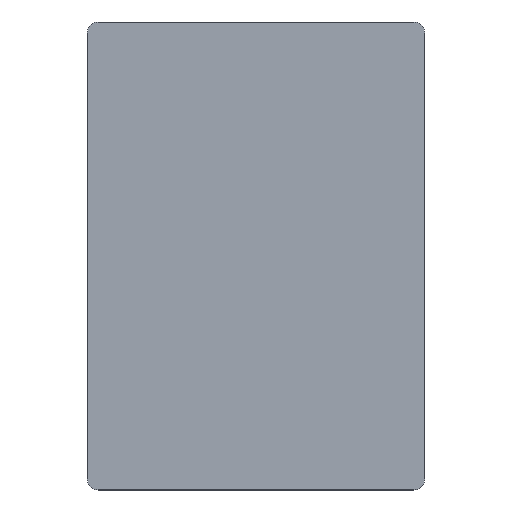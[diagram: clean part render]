
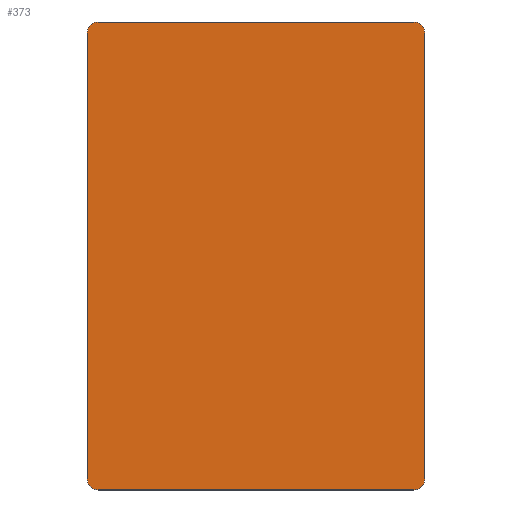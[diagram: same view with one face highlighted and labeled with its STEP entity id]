
A CAD part, top view. The second image highlights one B-rep face of the part: STEP entity #373.
In plain terms, the highlighted planar face has unit normal (0, 0, 1).
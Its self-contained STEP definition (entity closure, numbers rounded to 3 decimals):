
#7 = DIRECTION ( 'NONE',  ( 1., 0., 0. ) ) ;
#9 = DIRECTION ( 'NONE',  ( -1., 0., 0. ) ) ;
#16 = EDGE_CURVE ( 'NONE', #396, #147, #269, .T. ) ;
#25 = EDGE_CURVE ( 'NONE', #38, #189, #481, .T. ) ;
#38 = VERTEX_POINT ( 'NONE', #152 ) ;
#43 = LINE ( 'NONE', #375, #201 ) ;
#44 = CARTESIAN_POINT ( 'NONE',  ( -13.718, -92.863, 27.45 ) ) ;
#69 = ORIENTED_EDGE ( 'NONE', *, *, #456, .T. ) ;
#70 = DIRECTION ( 'NONE',  ( -1., 0., 0. ) ) ;
#80 = DIRECTION ( 'NONE',  ( 0., 1., 0. ) ) ;
#100 = CARTESIAN_POINT ( 'NONE',  ( -11.718, -14.13, 27.45 ) ) ;
#108 = CIRCLE ( 'NONE', #357, 2. ) ;
#126 = CARTESIAN_POINT ( 'NONE',  ( 46.022, -92.863, 27.45 ) ) ;
#127 = LINE ( 'NONE', #318, #555 ) ;
#134 = DIRECTION ( 'NONE',  ( -1., 0., 0. ) ) ;
#146 = AXIS2_PLACEMENT_3D ( 'NONE', #267, #270, #70 ) ;
#147 = VERTEX_POINT ( 'NONE', #519 ) ;
#149 = CARTESIAN_POINT ( 'NONE',  ( 44.022, -14.13, 27.45 ) ) ;
#151 = CARTESIAN_POINT ( 'NONE',  ( -5.748, -94.863, 27.45 ) ) ;
#152 = CARTESIAN_POINT ( 'NONE',  ( -11.718, -94.863, 27.45 ) ) ;
#169 = AXIS2_PLACEMENT_3D ( 'NONE', #384, #196, #134 ) ;
#172 = DIRECTION ( 'NONE',  ( 0., -1., 0. ) ) ;
#178 = CARTESIAN_POINT ( 'NONE',  ( -11.718, -12.13, 27.45 ) ) ;
#189 = VERTEX_POINT ( 'NONE', #416 ) ;
#196 = DIRECTION ( 'NONE',  ( 0., 0., 1. ) ) ;
#199 = DIRECTION ( 'NONE',  ( -1., 0., 0. ) ) ;
#201 = VECTOR ( 'NONE', #80, 1000. ) ;
#226 = ORIENTED_EDGE ( 'NONE', *, *, #25, .T. ) ;
#229 = EDGE_CURVE ( 'NONE', #325, #396, #43, .T. ) ;
#236 = VERTEX_POINT ( 'NONE', #178 ) ;
#246 = CIRCLE ( 'NONE', #169, 2. ) ;
#252 = CARTESIAN_POINT ( 'NONE',  ( -13.718, -14.13, 27.45 ) ) ;
#264 = EDGE_LOOP ( 'NONE', ( #226, #69, #611, #617, #610, #355, #321, #370 ) ) ;
#267 = CARTESIAN_POINT ( 'NONE',  ( 44.022, -92.863, 27.45 ) ) ;
#269 = CIRCLE ( 'NONE', #317, 2. ) ;
#270 = DIRECTION ( 'NONE',  ( 0., 0., 1. ) ) ;
#286 = LINE ( 'NONE', #296, #359 ) ;
#294 = DIRECTION ( 'NONE',  ( -1., 0., 0. ) ) ;
#296 = CARTESIAN_POINT ( 'NONE',  ( -5.748, -12.13, 27.45 ) ) ;
#303 = DIRECTION ( 'NONE',  ( 0., 0., -1. ) ) ;
#317 = AXIS2_PLACEMENT_3D ( 'NONE', #149, #491, #199 ) ;
#318 = CARTESIAN_POINT ( 'NONE',  ( -13.718, -12.13, 27.45 ) ) ;
#321 = ORIENTED_EDGE ( 'NONE', *, *, #522, .T. ) ;
#325 = VERTEX_POINT ( 'NONE', #126 ) ;
#333 = VERTEX_POINT ( 'NONE', #44 ) ;
#334 = AXIS2_PLACEMENT_3D ( 'NONE', #438, #303, #9 ) ;
#344 = PLANE ( 'NONE',  #334 ) ;
#354 = VECTOR ( 'NONE', #7, 1000. ) ;
#355 = ORIENTED_EDGE ( 'NONE', *, *, #371, .T. ) ;
#357 = AXIS2_PLACEMENT_3D ( 'NONE', #100, #399, #294 ) ;
#359 = VECTOR ( 'NONE', #498, 1000. ) ;
#370 = ORIENTED_EDGE ( 'NONE', *, *, #615, .T. ) ;
#371 = EDGE_CURVE ( 'NONE', #236, #389, #108, .T. ) ;
#373 = ADVANCED_FACE ( 'NONE', ( #556 ), #344, .F. ) ;
#375 = CARTESIAN_POINT ( 'NONE',  ( 46.022, -12.13, 27.45 ) ) ;
#384 = CARTESIAN_POINT ( 'NONE',  ( -11.718, -92.863, 27.45 ) ) ;
#389 = VERTEX_POINT ( 'NONE', #252 ) ;
#396 = VERTEX_POINT ( 'NONE', #489 ) ;
#399 = DIRECTION ( 'NONE',  ( 0., 0., 1. ) ) ;
#403 = EDGE_CURVE ( 'NONE', #147, #236, #286, .T. ) ;
#416 = CARTESIAN_POINT ( 'NONE',  ( 44.022, -94.863, 27.45 ) ) ;
#438 = CARTESIAN_POINT ( 'NONE',  ( 0., 0., 27.45 ) ) ;
#456 = EDGE_CURVE ( 'NONE', #189, #325, #606, .T. ) ;
#481 = LINE ( 'NONE', #151, #354 ) ;
#489 = CARTESIAN_POINT ( 'NONE',  ( 46.022, -14.13, 27.45 ) ) ;
#491 = DIRECTION ( 'NONE',  ( 0., 0., 1. ) ) ;
#498 = DIRECTION ( 'NONE',  ( -1., 0., 0. ) ) ;
#519 = CARTESIAN_POINT ( 'NONE',  ( 44.022, -12.13, 27.45 ) ) ;
#522 = EDGE_CURVE ( 'NONE', #389, #333, #127, .T. ) ;
#555 = VECTOR ( 'NONE', #172, 1000. ) ;
#556 = FACE_OUTER_BOUND ( 'NONE', #264, .T. ) ;
#606 = CIRCLE ( 'NONE', #146, 2. ) ;
#610 = ORIENTED_EDGE ( 'NONE', *, *, #403, .T. ) ;
#611 = ORIENTED_EDGE ( 'NONE', *, *, #229, .T. ) ;
#615 = EDGE_CURVE ( 'NONE', #333, #38, #246, .T. ) ;
#617 = ORIENTED_EDGE ( 'NONE', *, *, #16, .T. ) ;
